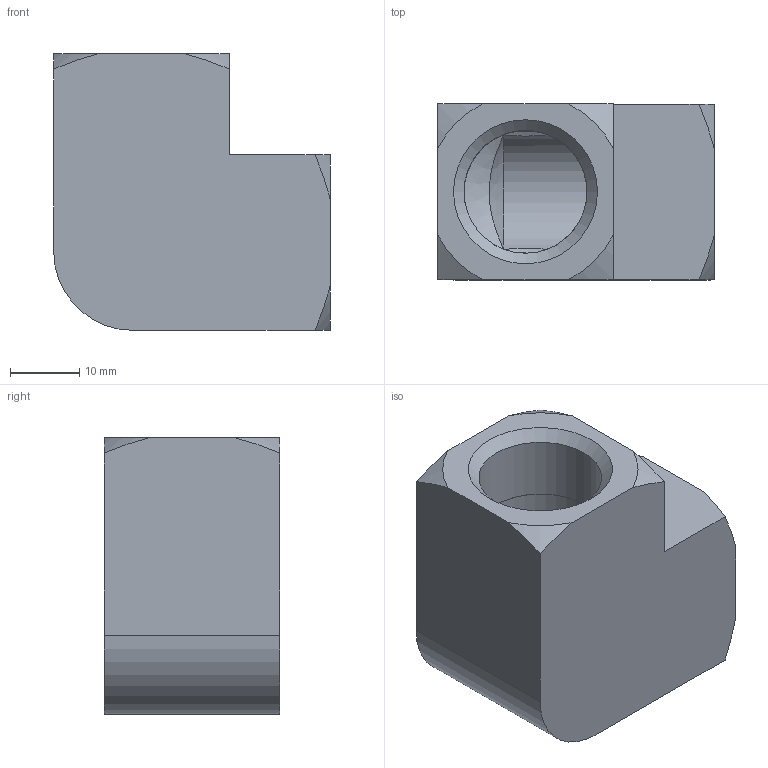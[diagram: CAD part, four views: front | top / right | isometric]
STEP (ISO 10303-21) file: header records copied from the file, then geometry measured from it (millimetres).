
FILE_DESCRIPTION(/* description */ (''),/* implementation_level */ '2;1');
FILE_NAME(/* name */ 'C:/Users/drich/Desktop/EL-50 v1.step',/* time_stamp */ '2020-02-09T11:06:12-06:00',/* author */ (''),/* organization */ (''),/* preprocessor_version */ 'ST-DEVELOPER v18',/* originating_system */ 'Autodesk Translation Framework v8.12.0.6',/* authorisation */ '');
FILE_SCHEMA (('AUTOMOTIVE_DESIGN { 1 0 10303 214 3 1 1 }'));
Length unit declared in the file: inch
Products named in the file (1): EL-50
Bounding box: 40.01 x 25.4 x 40.01 mm (x, y, z)
Volume: 20959.2 mm3; surface area: 8985 mm2
Topology: 1 solids, 1 shells, 41 faces, 100 edges, 63 vertices
Faces by surface type: cone 16, cylinder 13, plane 12
Full cylindrical faces by diameter (mm): 17.755 x2, 17.78 x2
Entity records: 1263 total; most frequent: CARTESIAN_POINT 270, DIRECTION 207, ORIENTED_EDGE 200, EDGE_CURVE 100, AXIS2_PLACEMENT_3D 86, VERTEX_POINT 63, EDGE_LOOP 45, FACE_OUTER_BOUND 41
